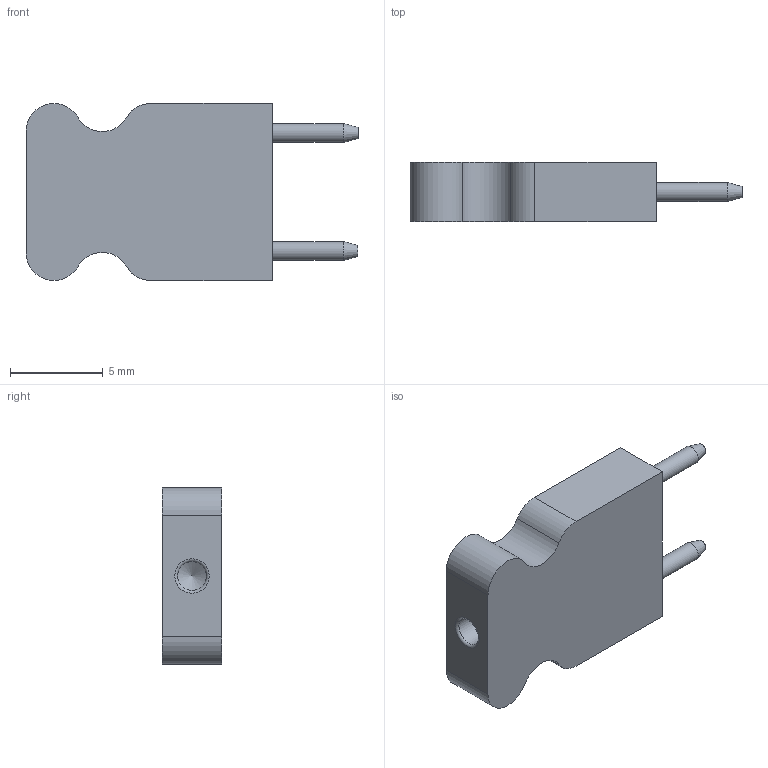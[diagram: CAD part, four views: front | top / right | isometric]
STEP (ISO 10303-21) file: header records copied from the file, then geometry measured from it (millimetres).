
FILE_DESCRIPTION(/* description */ (''),/* implementation_level */ '2;1');
FILE_NAME(/* name */ '\\Snap1\dwgs\Customer 3D Models\460\460-8500 Customer model.stp',/* time_stamp */ '2016-12-21T14:11:29+00:00',/* author */ ('paulk'),/* organization */ (''),/* preprocessor_version */ 'ST-DEVELOPER v15.2',/* originating_system */ 'Autodesk Inventor 2014',/* authorisation */ '');
FILE_SCHEMA (('CONFIG_CONTROL_DESIGN'));
Length unit declared in the file: millimetre
Products named in the file (1): 460-8500 Customer model
Bounding box: 17.86 x 3.17 x 9.53 mm (x, y, z)
Volume: 370.5 mm3; surface area: 433.4 mm2
Topology: 1 solids, 1 shells, 21 faces, 47 edges, 30 vertices
Faces by surface type: cylinder 9, plane 8, cone 3, torus 1
Full cylindrical faces by diameter (mm): 1.016 x2, 1.55 x1
Entity records: 609 total; most frequent: DIRECTION 104, CARTESIAN_POINT 90, ORIENTED_EDGE 78, AXIS2_PLACEMENT_3D 43, EDGE_CURVE 39, EDGE_LOOP 30, VERTEX_POINT 29, STYLED_ITEM 22
